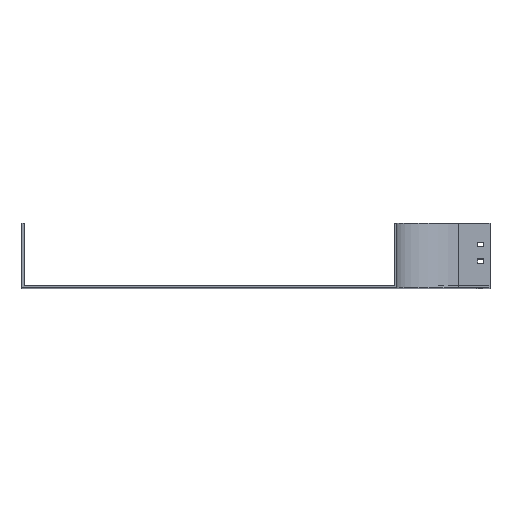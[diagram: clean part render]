
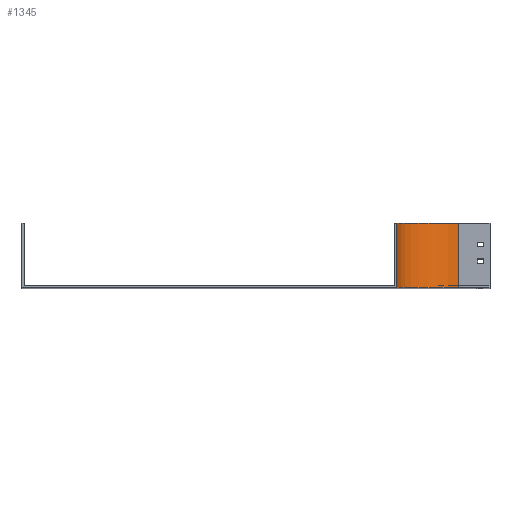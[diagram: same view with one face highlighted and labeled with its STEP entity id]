
A CAD part, top view. The second image highlights one B-rep face of the part: STEP entity #1345.
In plain terms, the highlighted cylindrical face has radius 100 mm (diameter 200 mm), a partial arc.
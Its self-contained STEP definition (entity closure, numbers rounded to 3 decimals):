
#147 = CARTESIAN_POINT ( 'NONE',  ( 0., 0., 0. ) ) ;
#224 = CYLINDRICAL_SURFACE ( 'NONE', #323, 100. ) ;
#323 = AXIS2_PLACEMENT_3D ( 'NONE', #678, #1737, #1988 ) ;
#336 = VERTEX_POINT ( 'NONE', #736 ) ;
#337 = CARTESIAN_POINT ( 'NONE',  ( 0., 104., -100. ) ) ;
#392 = CARTESIAN_POINT ( 'NONE',  ( -100., 0., 0. ) ) ;
#402 = DIRECTION ( 'NONE',  ( 0., -1., 0. ) ) ;
#424 = DIRECTION ( 'NONE',  ( 0., 0., -1. ) ) ;
#678 = CARTESIAN_POINT ( 'NONE',  ( 0., 104., 0. ) ) ;
#729 = CARTESIAN_POINT ( 'NONE',  ( -100., 104., 0. ) ) ;
#736 = CARTESIAN_POINT ( 'NONE',  ( 0., 104., -100. ) ) ;
#820 = CARTESIAN_POINT ( 'NONE',  ( -100., 104., 0. ) ) ;
#866 = VERTEX_POINT ( 'NONE', #729 ) ;
#914 = FACE_OUTER_BOUND ( 'NONE', #2102, .T. ) ;
#1016 = CIRCLE ( 'NONE', #2517, 100. ) ;
#1024 = DIRECTION ( 'NONE',  ( 0., 0., -1. ) ) ;
#1128 = VECTOR ( 'NONE', #1659, 1000. ) ;
#1176 = LINE ( 'NONE', #337, #2419 ) ;
#1222 = ORIENTED_EDGE ( 'NONE', *, *, #1448, .T. ) ;
#1345 = ADVANCED_FACE ( 'NONE', ( #914 ), #224, .F. ) ;
#1448 = EDGE_CURVE ( 'NONE', #866, #1793, #1645, .T. ) ;
#1464 = ORIENTED_EDGE ( 'NONE', *, *, #1828, .T. ) ;
#1645 = LINE ( 'NONE', #820, #1128 ) ;
#1653 = ORIENTED_EDGE ( 'NONE', *, *, #2049, .F. ) ;
#1659 = DIRECTION ( 'NONE',  ( 0., -1., 0. ) ) ;
#1737 = DIRECTION ( 'NONE',  ( 0., -1., 0. ) ) ;
#1793 = VERTEX_POINT ( 'NONE', #392 ) ;
#1828 = EDGE_CURVE ( 'NONE', #1793, #2541, #2380, .T. ) ;
#1888 = DIRECTION ( 'NONE',  ( 0., -1., 0. ) ) ;
#1985 = EDGE_CURVE ( 'NONE', #336, #2541, #1176, .T. ) ;
#1988 = DIRECTION ( 'NONE',  ( 0., 0., -1. ) ) ;
#2049 = EDGE_CURVE ( 'NONE', #866, #336, #1016, .T. ) ;
#2102 = EDGE_LOOP ( 'NONE', ( #1464, #2514, #1653, #1222 ) ) ;
#2183 = CARTESIAN_POINT ( 'NONE',  ( 0., 0., -100. ) ) ;
#2250 = AXIS2_PLACEMENT_3D ( 'NONE', #147, #1888, #424 ) ;
#2380 = CIRCLE ( 'NONE', #2250, 100. ) ;
#2419 = VECTOR ( 'NONE', #2667, 1000. ) ;
#2514 = ORIENTED_EDGE ( 'NONE', *, *, #1985, .F. ) ;
#2515 = CARTESIAN_POINT ( 'NONE',  ( 0., 104., 0. ) ) ;
#2517 = AXIS2_PLACEMENT_3D ( 'NONE', #2515, #402, #1024 ) ;
#2541 = VERTEX_POINT ( 'NONE', #2183 ) ;
#2667 = DIRECTION ( 'NONE',  ( 0., -1., 0. ) ) ;
